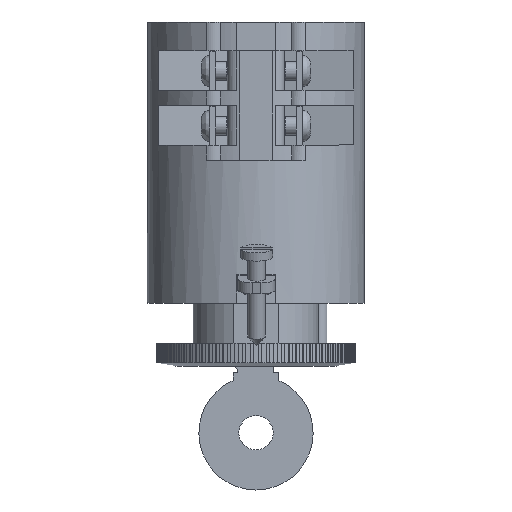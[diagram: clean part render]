
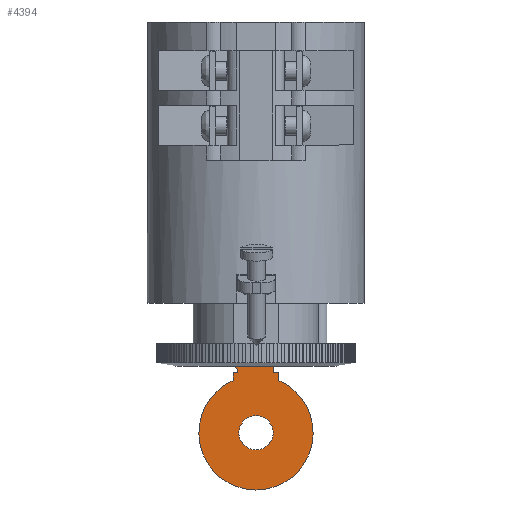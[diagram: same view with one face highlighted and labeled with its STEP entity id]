
A CAD part, left-side view. The second image highlights one B-rep face of the part: STEP entity #4394.
In plain terms, the highlighted planar face has unit normal (-1, 0, 0).
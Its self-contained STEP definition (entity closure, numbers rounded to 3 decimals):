
#2348=LINE('',#22634,#3672);
#2350=LINE('',#22647,#3674);
#2354=LINE('',#22656,#3678);
#2358=LINE('',#22665,#3682);
#2361=LINE('',#22671,#3685);
#2364=LINE('',#22677,#3688);
#2368=LINE('',#22689,#3692);
#2371=LINE('',#22693,#3695);
#2373=LINE('',#22697,#3697);
#3672=VECTOR('',#17974,1.);
#3674=VECTOR('',#17990,1.);
#3678=VECTOR('',#17996,1.);
#3682=VECTOR('',#18002,1.);
#3685=VECTOR('',#18007,1.);
#3688=VECTOR('',#18012,1.);
#3692=VECTOR('',#18024,1.);
#3695=VECTOR('',#18029,1.);
#3697=VECTOR('',#18035,1.);
#4394=ADVANCED_FACE('',(#5078,#5079),#4929,.F.);
#4929=PLANE('',#14463);
#5078=FACE_BOUND('',#5854,.T.);
#5079=FACE_BOUND('',#5855,.T.);
#5854=EDGE_LOOP('',(#9699,#9700,#9701,#9702,#9703,#9704,#9705,#9706,#9707,
#9708));
#5855=EDGE_LOOP('',(#9709));
#9699=ORIENTED_EDGE('',*,*,#12913,.F.);
#9700=ORIENTED_EDGE('',*,*,#12941,.T.);
#9701=ORIENTED_EDGE('',*,*,#12922,.F.);
#9702=ORIENTED_EDGE('',*,*,#12926,.F.);
#9703=ORIENTED_EDGE('',*,*,#12929,.F.);
#9704=ORIENTED_EDGE('',*,*,#12932,.F.);
#9705=ORIENTED_EDGE('',*,*,#12935,.F.);
#9706=ORIENTED_EDGE('',*,*,#12938,.F.);
#9707=ORIENTED_EDGE('',*,*,#12918,.F.);
#9708=ORIENTED_EDGE('',*,*,#12943,.F.);
#9709=ORIENTED_EDGE('',*,*,#12916,.T.);
#10996=VERTEX_POINT('',#22633);
#10997=VERTEX_POINT('',#22635);
#10999=VERTEX_POINT('',#22643);
#11001=VERTEX_POINT('',#22648);
#11002=VERTEX_POINT('',#22649);
#11005=VERTEX_POINT('',#22657);
#11006=VERTEX_POINT('',#22658);
#11009=VERTEX_POINT('',#22666);
#11011=VERTEX_POINT('',#22672);
#11013=VERTEX_POINT('',#22678);
#11015=VERTEX_POINT('',#22684);
#12913=EDGE_CURVE('',#10996,#10997,#2348,.T.);
#12916=EDGE_CURVE('',#10999,#10999,#13335,.T.);
#12918=EDGE_CURVE('',#11001,#11002,#2350,.T.);
#12922=EDGE_CURVE('',#11005,#11006,#2354,.T.);
#12926=EDGE_CURVE('',#11009,#11005,#2358,.T.);
#12929=EDGE_CURVE('',#11011,#11009,#2361,.T.);
#12932=EDGE_CURVE('',#11013,#11011,#2364,.T.);
#12935=EDGE_CURVE('',#11015,#11013,#13337,.T.);
#12938=EDGE_CURVE('',#11002,#11015,#2368,.T.);
#12941=EDGE_CURVE('',#10996,#11006,#2371,.T.);
#12943=EDGE_CURVE('',#10997,#11001,#2373,.T.);
#13335=CIRCLE('',#14448,3.);
#13337=CIRCLE('',#14456,10.);
#14448=AXIS2_PLACEMENT_3D('',#22642,#17984,#17985);
#14456=AXIS2_PLACEMENT_3D('',#22683,#18017,#18018);
#14463=AXIS2_PLACEMENT_3D('',#22699,#18038,#18039);
#17974=DIRECTION('',(0.,-1.,0.));
#17984=DIRECTION('',(1.,0.,0.));
#17985=DIRECTION('',(0.,1.,0.));
#17990=DIRECTION('',(0.,-1.,0.));
#17996=DIRECTION('',(0.,0.805,0.594));
#18002=DIRECTION('',(0.,0.,1.));
#18007=DIRECTION('',(0.,-1.,0.));
#18012=DIRECTION('',(0.,0.,1.));
#18017=DIRECTION('',(1.,0.,0.));
#18018=DIRECTION('',(0.,1.,0.));
#18024=DIRECTION('',(0.,0.,-1.));
#18029=DIRECTION('',(0.,0.,-1.));
#18035=DIRECTION('',(0.,0.,-1.));
#18038=DIRECTION('',(1.,0.,0.));
#18039=DIRECTION('',(0.,0.,-1.));
#22633=CARTESIAN_POINT('',(-1.5,4.,-18.4));
#22634=CARTESIAN_POINT('',(-1.5,0.,-18.4));
#22635=CARTESIAN_POINT('',(-1.5,-3.1,-18.4));
#22642=CARTESIAN_POINT('',(-1.5,0.,-30.081));
#22643=CARTESIAN_POINT('',(-1.5,3.,-30.081));
#22647=CARTESIAN_POINT('',(-1.5,-3.1,-19.493));
#22648=CARTESIAN_POINT('',(-1.5,-3.1,-19.493));
#22649=CARTESIAN_POINT('',(-1.5,-4.,-19.493));
#22656=CARTESIAN_POINT('',(-1.5,3.262,-18.949));
#22657=CARTESIAN_POINT('',(-1.5,3.262,-18.949));
#22658=CARTESIAN_POINT('',(-1.5,4.,-18.404));
#22665=CARTESIAN_POINT('',(-1.5,3.262,-19.524));
#22666=CARTESIAN_POINT('',(-1.5,3.262,-19.524));
#22671=CARTESIAN_POINT('',(-1.5,4.,-19.524));
#22672=CARTESIAN_POINT('',(-1.5,4.,-19.524));
#22677=CARTESIAN_POINT('',(-1.5,4.,-20.916));
#22678=CARTESIAN_POINT('',(-1.5,4.,-20.916));
#22683=CARTESIAN_POINT('',(-1.5,0.,-30.081));
#22684=CARTESIAN_POINT('',(-1.5,-4.,-20.916));
#22689=CARTESIAN_POINT('',(-1.5,-4.,-19.493));
#22693=CARTESIAN_POINT('',(-1.5,4.,-0.404));
#22697=CARTESIAN_POINT('',(-1.5,-3.1,-0.404));
#22699=CARTESIAN_POINT('',(-1.5,4.,-0.404));
